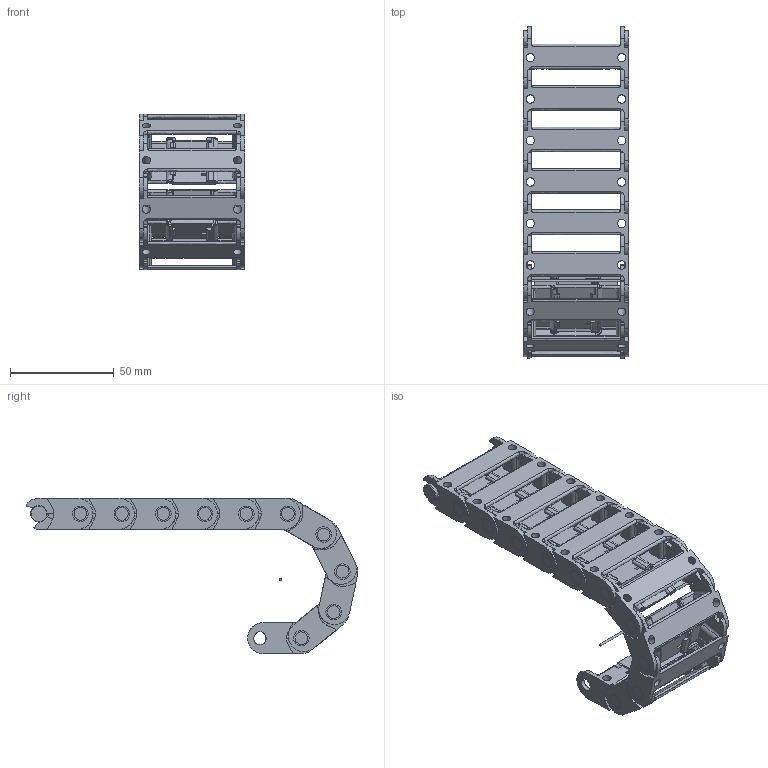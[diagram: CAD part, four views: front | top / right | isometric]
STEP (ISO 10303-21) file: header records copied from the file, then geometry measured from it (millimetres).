
FILE_DESCRIPTION((''),'2;1');
FILE_NAME('C:\Uebbing\PARAMETERKETTEN\KOLIBRI\Kol_15_051_0\Kol_15_051_0_R30.stp','2012-03-02T15:24:02',('Uebbing'),(''),'Autodesk Inventor 10','Autodesk Inventor 10','');
FILE_SCHEMA(('AUTOMOTIVE_DESIGN { 1 0 10303 214 1 1 1 1 }'));
Length unit declared in the file: millimetre
Products named in the file (5): KOLIBRI 15_051_0_PARAMETRISCH; Kol_15_051_0; Kol_15_051_0DECKEL01; Achse
Assembly tree (14 placements, depth 3):
  KOLIBRI 15_051_0_PARAMETRISCH
    Kol_15_051_0  x11
      Kol_15_051_0
      Kol_15_051_0DECKEL01
    Achse
Bounding box: 51 x 160.04 x 75 mm (x, y, z)
Volume: 49551.6 mm3; surface area: 57665.1 mm2
Topology: 23 solids, 23 shells, 2522 faces, 7143 edges, 4568 vertices
Faces by surface type: bspline 1298, plane 750, cylinder 430, cone 44
Full cylindrical faces by diameter (mm): 1 x1, 2 x44, 6.1 x11, 8 x11
Entity records: 11597 total; most frequent: CARTESIAN_POINT 5769, ORIENTED_EDGE 1266, DIRECTION 1082, EDGE_CURVE 633, VERTEX_POINT 416, VECTOR 374, LINE 374, AXIS2_PLACEMENT_3D 354
